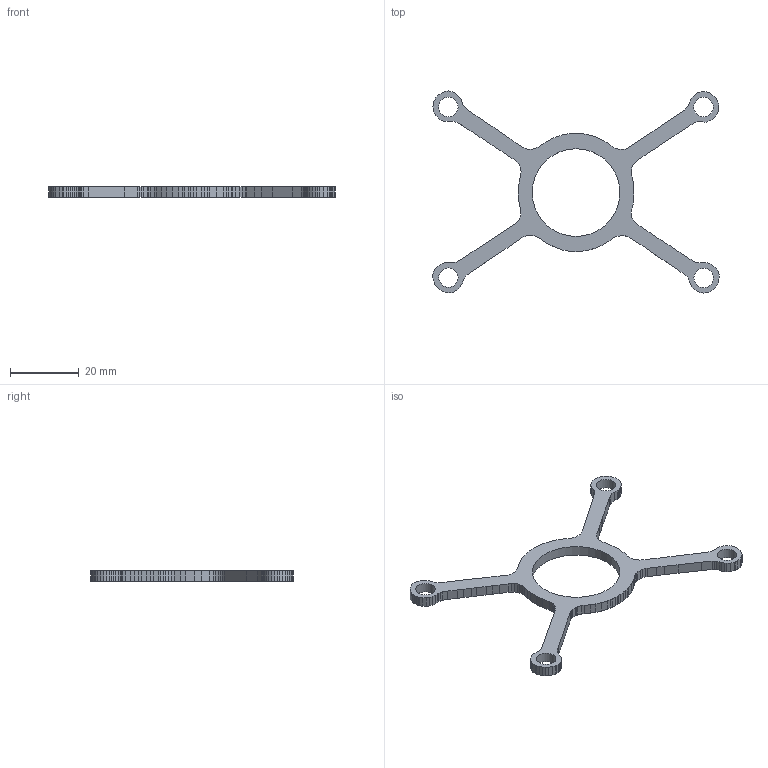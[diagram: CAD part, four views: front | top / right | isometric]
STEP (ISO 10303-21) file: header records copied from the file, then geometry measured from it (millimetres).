
FILE_DESCRIPTION(('Open CASCADE Model'),'2;1');
FILE_NAME('Open CASCADE Shape Model','2026-10-01T15:23:51',('Author'),( 'Open CASCADE'),'Open CASCADE STEP processor 7.9','Open CASCADE 7.9' ,'Unknown');
FILE_SCHEMA(('AUTOMOTIVE_DESIGN { 1 0 10303 214 1 1 1 1 }'));
Length unit declared in the file: millimetre
Products named in the file (1): Open CASCADE STEP translator 7.9 17
Bounding box: 83.4 x 58.83 x 3 mm (x, y, z)
Volume: 2971.6 mm3; surface area: 3527.1 mm2
Topology: 1 solids, 1 shells, 269 faces, 801 edges, 534 vertices
Faces by surface type: plane 264, cylinder 5
Full cylindrical faces by diameter (mm): 5.649 x1, 5.659 x1, 5.661 x1, 5.673 x1, 25.523 x1
Entity records: 19288 total; most frequent: CARTESIAN_POINT 3207, DIRECTION 2953, LINE 2383, VECTOR 2383, ORIENTED_EDGE 1602, PCURVE 1602, DEFINITIONAL_REPRESENTATION 1602, EDGE_CURVE 801
